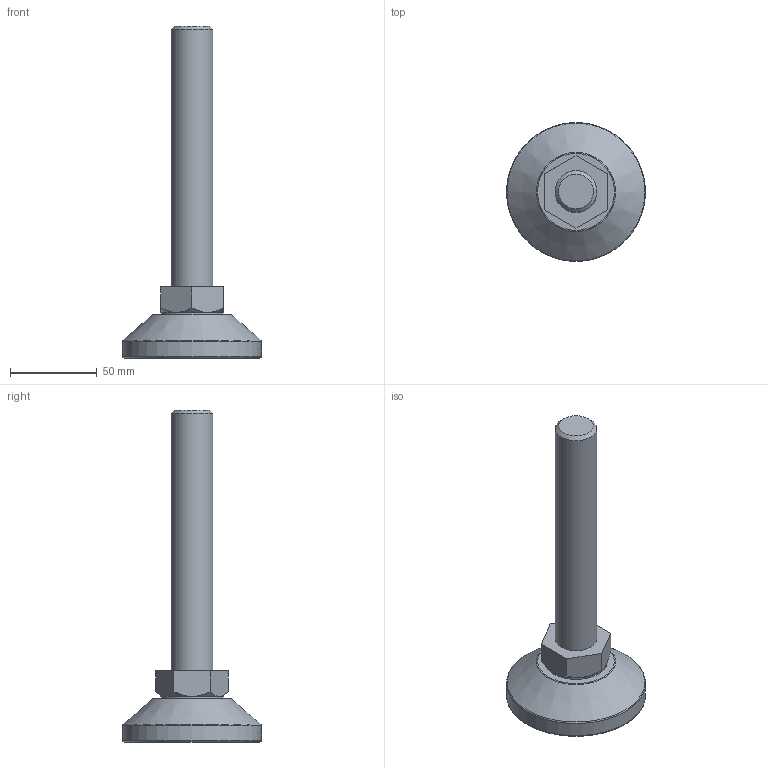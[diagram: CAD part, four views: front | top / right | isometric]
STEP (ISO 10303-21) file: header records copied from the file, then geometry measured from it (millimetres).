
FILE_DESCRIPTION(/* description */ (''),/* implementation_level */ '2;1');
FILE_NAME(/* name */ 'D:\조절자\F\F-M24-150L.stp',/* time_stamp */ '2016-03-14T14:29:44+09:00',/* author */ ('GS-DT-1-001'),/* organization */ (''),/* preprocessor_version */ 'ST-DEVELOPER v15.6',/* originating_system */ 'Autodesk Inventor LT ',/* authorisation */ '');
FILE_SCHEMA (('AUTOMOTIVE_DESIGN { 1 0 10303 214 3 1 1 }'));
Length unit declared in the file: millimetre
Products named in the file (1): F-M24-150L
Bounding box: 80 x 80 x 191 mm (x, y, z)
Volume: 152260.4 mm3; surface area: 35082.1 mm2
Topology: 4 solids, 4 shells, 46 faces, 84 edges, 52 vertices
Faces by surface type: plane 20, cylinder 13, cone 9, torus 4
Full cylindrical faces by diameter (mm): 7.153 x1, 8 x1, 8.2 x1, 8.3 x1, 16 x1, 24 x1, 36 x1, 50 x1, 57 x1, 61 x1, 71 x1, 75 x1, 80 x1
Entity records: 995 total; most frequent: DIRECTION 180, CARTESIAN_POINT 163, ORIENTED_EDGE 110, AXIS2_PLACEMENT_3D 84, EDGE_LOOP 82, EDGE_CURVE 55, VERTEX_POINT 49, FACE_OUTER_BOUND 46
